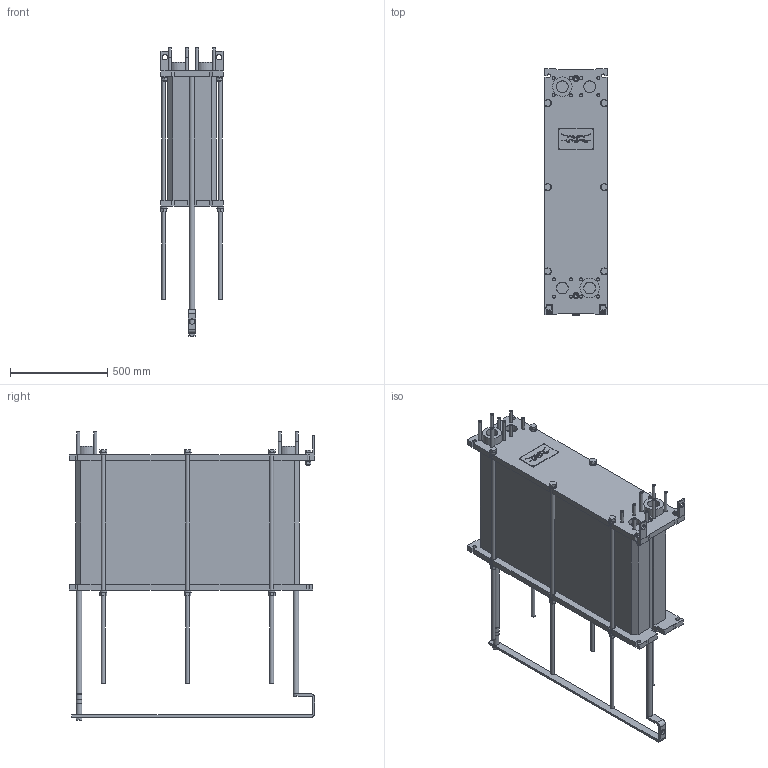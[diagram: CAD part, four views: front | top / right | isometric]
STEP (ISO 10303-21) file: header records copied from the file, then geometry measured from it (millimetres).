
FILE_DESCRIPTION(/* description */ (''),/* implementation_level */ '2;1');
FILE_NAME(/* name */ 'C:\temp\TL6_FG_LC1200_08_Rev0.stp',/* time_stamp */ '2016-02-02T13:37:03+08:00',/* author */ ('SELUJJNCX'),/* organization */ (''),/* preprocessor_version */ 'ST-DEVELOPER v15.6',/* originating_system */ 'Autodesk Inventor 2015',/* authorisation */ '270013742 mm^3');
FILE_SCHEMA (('AUTOMOTIVE_DESIGN { 1 0 10303 214 3 1 1 }'));
Length unit declared in the file: millimetre
Products named in the file (1): 3dmodel_TL6.5
Bounding box: 326 x 1264 x 1484.5 mm (x, y, z)
Volume: 202633803.6 mm3; surface area: 4504237 mm2
Topology: 1 solids, 3 shells, 857 faces, 2274 edges, 1495 vertices
Faces by surface type: plane 589, cylinder 236, cone 27, torus 5
Full cylindrical faces by diameter (mm): 4.049 x4, 16 x20, 18 x2, 20 x12, 22 x2, 28 x4, 30 x10, 32 x2, 36 x12, 37 x1, 61 x10, 100 x2
Entity records: 25804 total; most frequent: CARTESIAN_POINT 4474, DIRECTION 4355, ORIENTED_EDGE 4258, EDGE_CURVE 2129, LINE 1595, VECTOR 1595, VERTEX_POINT 1463, AXIS2_PLACEMENT_3D 1380
